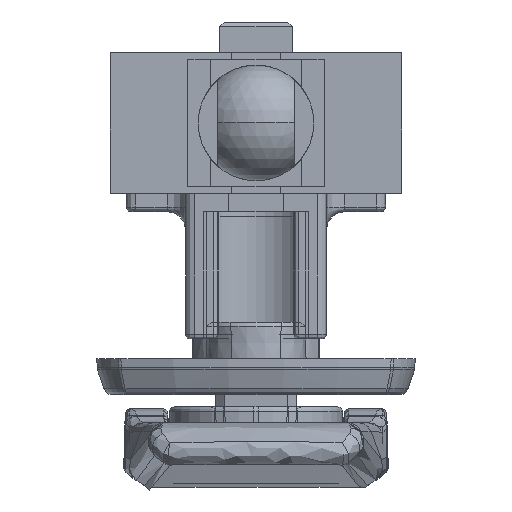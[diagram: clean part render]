
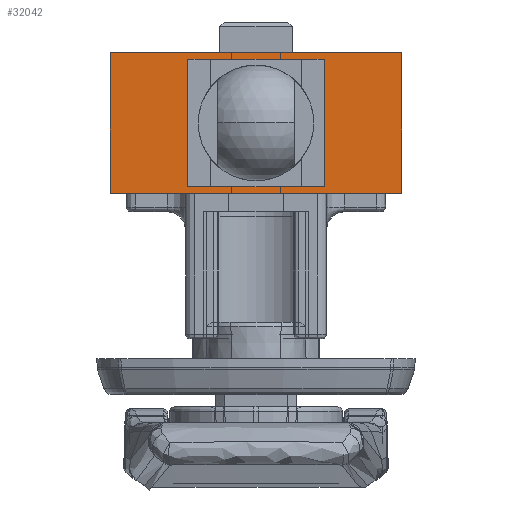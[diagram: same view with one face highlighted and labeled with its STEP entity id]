
A CAD part, front view. The second image highlights one B-rep face of the part: STEP entity #32042.
In plain terms, the highlighted planar face has unit normal (0, -1, 0).
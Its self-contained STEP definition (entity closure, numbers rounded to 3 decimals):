
#2921 = CARTESIAN_POINT ( 'NONE',  ( -16., -199.25, 7.75 ) ) ;
#3051 = EDGE_CURVE ( 'NONE', #23138, #16538, #25053, .T. ) ;
#3132 = VERTEX_POINT ( 'NONE', #22276 ) ;
#3361 = VECTOR ( 'NONE', #9617, 1000. ) ;
#3702 = CARTESIAN_POINT ( 'NONE',  ( -16., -199.25, -7.75 ) ) ;
#4177 = EDGE_CURVE ( 'NONE', #11156, #17779, #23419, .T. ) ;
#5076 = EDGE_CURVE ( 'NONE', #27590, #3132, #31992, .T. ) ;
#5729 = EDGE_CURVE ( 'NONE', #16538, #27590, #16010, .T. ) ;
#6009 = LINE ( 'NONE', #13390, #16126 ) ;
#6691 = VECTOR ( 'NONE', #7602, 1000. ) ;
#7057 = CARTESIAN_POINT ( 'NONE',  ( -7., -199.25, -6.25 ) ) ;
#7289 = LINE ( 'NONE', #30080, #6691 ) ;
#7602 = DIRECTION ( 'NONE',  ( 1., 0., 0. ) ) ;
#8174 = LINE ( 'NONE', #18207, #27262 ) ;
#9151 = EDGE_CURVE ( 'NONE', #17779, #27512, #7289, .T. ) ;
#9617 = DIRECTION ( 'NONE',  ( 0., 0., 1. ) ) ;
#10830 = FACE_OUTER_BOUND ( 'NONE', #26912, .T. ) ;
#10938 = CARTESIAN_POINT ( 'NONE',  ( 7., -199.25, 6.25 ) ) ;
#11101 = EDGE_CURVE ( 'NONE', #3132, #23138, #8174, .T. ) ;
#11156 = VERTEX_POINT ( 'NONE', #28368 ) ;
#12336 = EDGE_LOOP ( 'NONE', ( #19089, #18635, #14819, #12963 ) ) ;
#12885 = ORIENTED_EDGE ( 'NONE', *, *, #31312, .F. ) ;
#12963 = ORIENTED_EDGE ( 'NONE', *, *, #11101, .F. ) ;
#13378 = DIRECTION ( 'NONE',  ( 0., 0., -1. ) ) ;
#13390 = CARTESIAN_POINT ( 'NONE',  ( -16., -199.25, 7.75 ) ) ;
#13451 = DIRECTION ( 'NONE',  ( 0., 1., 0. ) ) ;
#14040 = CARTESIAN_POINT ( 'NONE',  ( 7., -199.25, 6.25 ) ) ;
#14819 = ORIENTED_EDGE ( 'NONE', *, *, #3051, .F. ) ;
#15071 = DIRECTION ( 'NONE',  ( 0., 0., -1. ) ) ;
#15469 = VECTOR ( 'NONE', #31108, 1000. ) ;
#15958 = ORIENTED_EDGE ( 'NONE', *, *, #9151, .T. ) ;
#15999 = DIRECTION ( 'NONE',  ( 1., 0., 0. ) ) ;
#16010 = LINE ( 'NONE', #10938, #15469 ) ;
#16062 = FACE_BOUND ( 'NONE', #12336, .T. ) ;
#16126 = VECTOR ( 'NONE', #15999, 1000. ) ;
#16538 = VERTEX_POINT ( 'NONE', #14040 ) ;
#17779 = VERTEX_POINT ( 'NONE', #3702 ) ;
#18207 = CARTESIAN_POINT ( 'NONE',  ( -7., -199.25, -6.25 ) ) ;
#18546 = CARTESIAN_POINT ( 'NONE',  ( -16., -199.25, 7.75 ) ) ;
#18635 = ORIENTED_EDGE ( 'NONE', *, *, #5729, .F. ) ;
#19089 = ORIENTED_EDGE ( 'NONE', *, *, #5076, .F. ) ;
#19112 = CARTESIAN_POINT ( 'NONE',  ( 16., -199.25, 7.75 ) ) ;
#19440 = CARTESIAN_POINT ( 'NONE',  ( -7., -199.25, 6.25 ) ) ;
#20931 = LINE ( 'NONE', #19112, #26669 ) ;
#21766 = VECTOR ( 'NONE', #15071, 1000. ) ;
#22276 = CARTESIAN_POINT ( 'NONE',  ( -7., -199.25, -6.25 ) ) ;
#23138 = VERTEX_POINT ( 'NONE', #29668 ) ;
#23419 = LINE ( 'NONE', #2921, #28520 ) ;
#23549 = CARTESIAN_POINT ( 'NONE',  ( 16., -199.25, -7.75 ) ) ;
#23562 = AXIS2_PLACEMENT_3D ( 'NONE', #18546, #13451, #28540 ) ;
#25053 = LINE ( 'NONE', #29960, #3361 ) ;
#25102 = VERTEX_POINT ( 'NONE', #25737 ) ;
#25737 = CARTESIAN_POINT ( 'NONE',  ( 16., -199.25, 7.75 ) ) ;
#26669 = VECTOR ( 'NONE', #13378, 1000. ) ;
#26912 = EDGE_LOOP ( 'NONE', ( #15958, #12885, #31732, #28300 ) ) ;
#27262 = VECTOR ( 'NONE', #28197, 1000. ) ;
#27512 = VERTEX_POINT ( 'NONE', #23549 ) ;
#27590 = VERTEX_POINT ( 'NONE', #19440 ) ;
#28197 = DIRECTION ( 'NONE',  ( 1., 0., 0. ) ) ;
#28300 = ORIENTED_EDGE ( 'NONE', *, *, #4177, .T. ) ;
#28368 = CARTESIAN_POINT ( 'NONE',  ( -16., -199.25, 7.75 ) ) ;
#28380 = PLANE ( 'NONE',  #23562 ) ;
#28520 = VECTOR ( 'NONE', #30953, 1000. ) ;
#28540 = DIRECTION ( 'NONE',  ( 0., 0., 1. ) ) ;
#29668 = CARTESIAN_POINT ( 'NONE',  ( 7., -199.25, -6.25 ) ) ;
#29811 = EDGE_CURVE ( 'NONE', #11156, #25102, #6009, .T. ) ;
#29960 = CARTESIAN_POINT ( 'NONE',  ( 7., -199.25, 6.25 ) ) ;
#30080 = CARTESIAN_POINT ( 'NONE',  ( -16., -199.25, -7.75 ) ) ;
#30953 = DIRECTION ( 'NONE',  ( 0., 0., -1. ) ) ;
#31108 = DIRECTION ( 'NONE',  ( -1., 0., 0. ) ) ;
#31312 = EDGE_CURVE ( 'NONE', #25102, #27512, #20931, .T. ) ;
#31732 = ORIENTED_EDGE ( 'NONE', *, *, #29811, .F. ) ;
#31992 = LINE ( 'NONE', #7057, #21766 ) ;
#32042 = ADVANCED_FACE ( 'NONE', ( #16062, #10830 ), #28380, .F. ) ;
